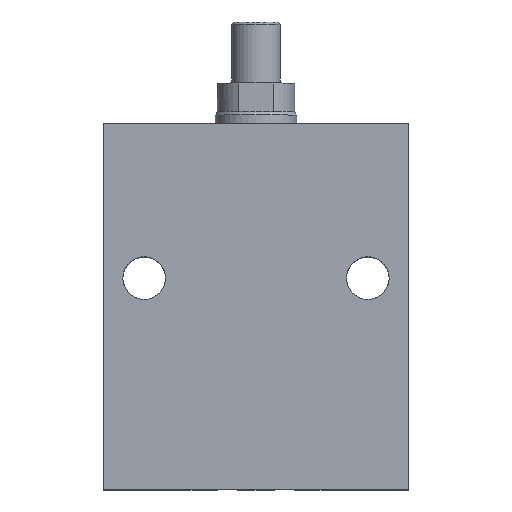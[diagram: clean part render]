
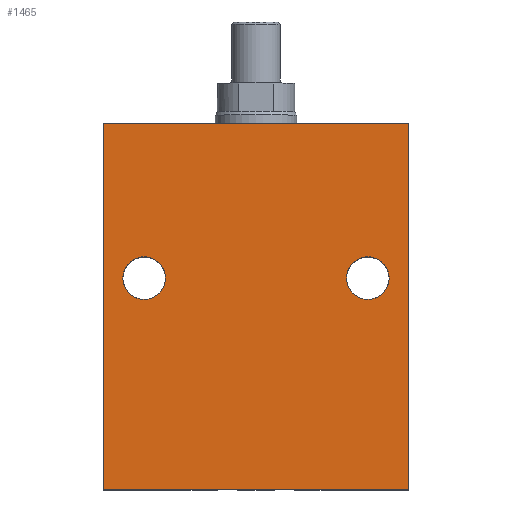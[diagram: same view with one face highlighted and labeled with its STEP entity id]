
A CAD part, top view. The second image highlights one B-rep face of the part: STEP entity #1465.
In plain terms, the highlighted planar face has unit normal (0, 0, 1).
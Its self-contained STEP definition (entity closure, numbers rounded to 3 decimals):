
#10 = EDGE_CURVE ( 'NONE', #1364, #4050, #245, .T. ) ;
#68 = CARTESIAN_POINT ( 'NONE',  ( -37.5, 90., 27.5 ) ) ;
#158 = EDGE_CURVE ( 'NONE', #1520, #1364, #2280, .T. ) ;
#189 = CARTESIAN_POINT ( 'NONE',  ( 27.5, 52., 27.5 ) ) ;
#198 = CIRCLE ( 'NONE', #476, 5.25 ) ;
#245 = LINE ( 'NONE', #3073, #1115 ) ;
#272 = FACE_OUTER_BOUND ( 'NONE', #3172, .T. ) ;
#322 = EDGE_LOOP ( 'NONE', ( #1052, #3092 ) ) ;
#391 = VERTEX_POINT ( 'NONE', #4012 ) ;
#445 = EDGE_CURVE ( 'NONE', #3308, #4050, #2072, .T. ) ;
#476 = AXIS2_PLACEMENT_3D ( 'NONE', #1664, #3885, #1981 ) ;
#480 = AXIS2_PLACEMENT_3D ( 'NONE', #3343, #1445, #3661 ) ;
#501 = VERTEX_POINT ( 'NONE', #929 ) ;
#517 = CARTESIAN_POINT ( 'NONE',  ( -37.5, 65., 27.5 ) ) ;
#521 = DIRECTION ( 'NONE',  ( 1., 0., 0. ) ) ;
#570 = CARTESIAN_POINT ( 'NONE',  ( -37.5, 0., 27.5 ) ) ;
#590 = VECTOR ( 'NONE', #2776, 1000. ) ;
#745 = CIRCLE ( 'NONE', #3969, 5.25 ) ;
#785 = ORIENTED_EDGE ( 'NONE', *, *, #866, .T. ) ;
#851 = CARTESIAN_POINT ( 'NONE',  ( 37.5, 0., 27.5 ) ) ;
#866 = EDGE_CURVE ( 'NONE', #1520, #3308, #1435, .T. ) ;
#929 = CARTESIAN_POINT ( 'NONE',  ( 32.75, 52., 27.5 ) ) ;
#1052 = ORIENTED_EDGE ( 'NONE', *, *, #4042, .F. ) ;
#1089 = CARTESIAN_POINT ( 'NONE',  ( -37.5, 65., 27.5 ) ) ;
#1115 = VECTOR ( 'NONE', #2842, 1000. ) ;
#1134 = ORIENTED_EDGE ( 'NONE', *, *, #445, .T. ) ;
#1163 = PLANE ( 'NONE',  #3207 ) ;
#1202 = CARTESIAN_POINT ( 'NONE',  ( -37.5, 90., 27.5 ) ) ;
#1297 = CARTESIAN_POINT ( 'NONE',  ( -37.5, 0., 27.5 ) ) ;
#1364 = VERTEX_POINT ( 'NONE', #3314 ) ;
#1435 = LINE ( 'NONE', #1089, #3959 ) ;
#1436 = DIRECTION ( 'NONE',  ( 0., 0., 1. ) ) ;
#1445 = DIRECTION ( 'NONE',  ( 0., 0., 1. ) ) ;
#1457 = VECTOR ( 'NONE', #3261, 1000. ) ;
#1465 = ADVANCED_FACE ( 'NONE', ( #1964, #3658, #272 ), #1163, .F. ) ;
#1520 = VERTEX_POINT ( 'NONE', #1202 ) ;
#1641 = ORIENTED_EDGE ( 'NONE', *, *, #10, .F. ) ;
#1664 = CARTESIAN_POINT ( 'NONE',  ( 27.5, 52., 27.5 ) ) ;
#1695 = ORIENTED_EDGE ( 'NONE', *, *, #3067, .F. ) ;
#1793 = DIRECTION ( 'NONE',  ( 0., 0., -1. ) ) ;
#1964 = FACE_BOUND ( 'NONE', #322, .T. ) ;
#1981 = DIRECTION ( 'NONE',  ( 1., 0., 0. ) ) ;
#2072 = LINE ( 'NONE', #570, #590 ) ;
#2106 = ORIENTED_EDGE ( 'NONE', *, *, #158, .F. ) ;
#2218 = VERTEX_POINT ( 'NONE', #2490 ) ;
#2280 = LINE ( 'NONE', #68, #1457 ) ;
#2387 = EDGE_CURVE ( 'NONE', #391, #501, #198, .T. ) ;
#2399 = DIRECTION ( 'NONE',  ( 0., 0., 1. ) ) ;
#2439 = VERTEX_POINT ( 'NONE', #3899 ) ;
#2490 = CARTESIAN_POINT ( 'NONE',  ( -32.75, 52., 27.5 ) ) ;
#2561 = DIRECTION ( 'NONE',  ( 0., -1., 0. ) ) ;
#2776 = DIRECTION ( 'NONE',  ( 1., 0., 0. ) ) ;
#2789 = CIRCLE ( 'NONE', #3118, 5.25 ) ;
#2842 = DIRECTION ( 'NONE',  ( 0., -1., 0. ) ) ;
#3067 = EDGE_CURVE ( 'NONE', #2218, #2439, #745, .T. ) ;
#3073 = CARTESIAN_POINT ( 'NONE',  ( 37.5, 65., 27.5 ) ) ;
#3092 = ORIENTED_EDGE ( 'NONE', *, *, #2387, .F. ) ;
#3108 = EDGE_CURVE ( 'NONE', #2439, #2218, #4113, .T. ) ;
#3118 = AXIS2_PLACEMENT_3D ( 'NONE', #189, #2399, #521 ) ;
#3172 = EDGE_LOOP ( 'NONE', ( #1134, #1641, #2106, #785 ) ) ;
#3207 = AXIS2_PLACEMENT_3D ( 'NONE', #517, #1793, #4003 ) ;
#3261 = DIRECTION ( 'NONE',  ( 1., 0., 0. ) ) ;
#3308 = VERTEX_POINT ( 'NONE', #1297 ) ;
#3314 = CARTESIAN_POINT ( 'NONE',  ( 37.5, 90., 27.5 ) ) ;
#3329 = CARTESIAN_POINT ( 'NONE',  ( -27.5, 52., 27.5 ) ) ;
#3343 = CARTESIAN_POINT ( 'NONE',  ( -27.5, 52., 27.5 ) ) ;
#3447 = EDGE_LOOP ( 'NONE', ( #4073, #1695 ) ) ;
#3646 = DIRECTION ( 'NONE',  ( 1., 0., 0. ) ) ;
#3658 = FACE_BOUND ( 'NONE', #3447, .T. ) ;
#3661 = DIRECTION ( 'NONE',  ( 1., 0., 0. ) ) ;
#3885 = DIRECTION ( 'NONE',  ( 0., 0., 1. ) ) ;
#3899 = CARTESIAN_POINT ( 'NONE',  ( -22.25, 52., 27.5 ) ) ;
#3959 = VECTOR ( 'NONE', #2561, 1000. ) ;
#3969 = AXIS2_PLACEMENT_3D ( 'NONE', #3329, #1436, #3646 ) ;
#4003 = DIRECTION ( 'NONE',  ( -1., 0., 0. ) ) ;
#4012 = CARTESIAN_POINT ( 'NONE',  ( 22.25, 52., 27.5 ) ) ;
#4042 = EDGE_CURVE ( 'NONE', #501, #391, #2789, .T. ) ;
#4050 = VERTEX_POINT ( 'NONE', #851 ) ;
#4073 = ORIENTED_EDGE ( 'NONE', *, *, #3108, .F. ) ;
#4113 = CIRCLE ( 'NONE', #480, 5.25 ) ;
